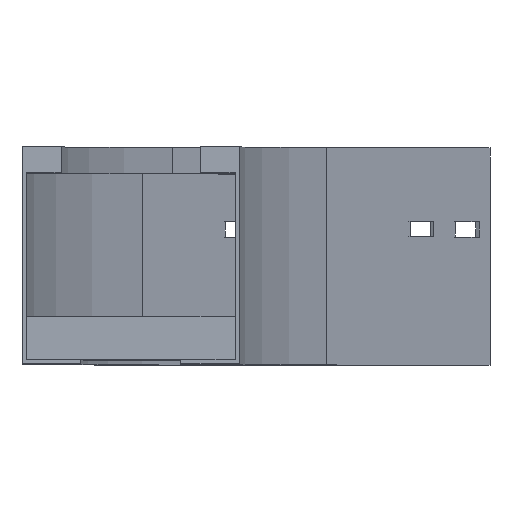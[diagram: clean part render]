
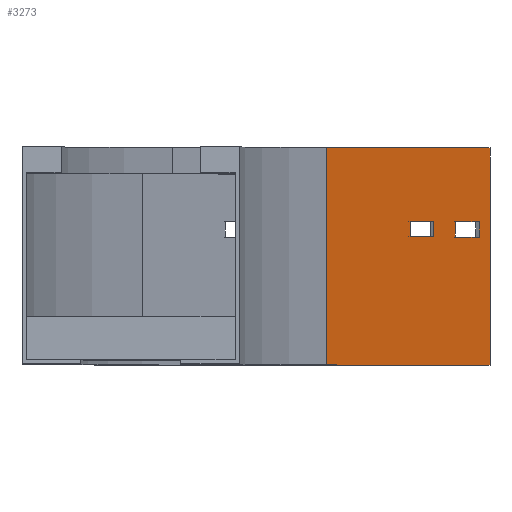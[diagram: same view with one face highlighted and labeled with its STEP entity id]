
A CAD part, top view. The second image highlights one B-rep face of the part: STEP entity #3273.
In plain terms, the highlighted planar face has unit normal (0.866, 0, 0.5).
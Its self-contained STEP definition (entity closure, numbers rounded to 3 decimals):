
#10 = VERTEX_POINT ( 'NONE', #3017 ) ;
#49 = CARTESIAN_POINT ( 'NONE',  ( 110.275, 66., -421.386 ) ) ;
#78 = LINE ( 'NONE', #449, #2650 ) ;
#108 = VERTEX_POINT ( 'NONE', #1789 ) ;
#145 = ORIENTED_EDGE ( 'NONE', *, *, #707, .T. ) ;
#217 = ORIENTED_EDGE ( 'NONE', *, *, #3652, .F. ) ;
#246 = CARTESIAN_POINT ( 'NONE',  ( 89.44, 66., -385.299 ) ) ;
#309 = CARTESIAN_POINT ( 'NONE',  ( 115.192, 0., -429.904 ) ) ;
#312 = VERTEX_POINT ( 'NONE', #309 ) ;
#317 = ORIENTED_EDGE ( 'NONE', *, *, #3409, .F. ) ;
#377 = VERTEX_POINT ( 'NONE', #3225 ) ;
#432 = CARTESIAN_POINT ( 'NONE',  ( 99.275, 66., -402.334 ) ) ;
#449 = CARTESIAN_POINT ( 'NONE',  ( 110.275, 59., -421.386 ) ) ;
#511 = VERTEX_POINT ( 'NONE', #1527 ) ;
#521 = CARTESIAN_POINT ( 'NONE',  ( 40.192, 0., -300. ) ) ;
#595 = VERTEX_POINT ( 'NONE', #2811 ) ;
#628 = DIRECTION ( 'NONE',  ( -0.5, 0., 0.866 ) ) ;
#649 = AXIS2_PLACEMENT_3D ( 'NONE', #1219, #3246, #3320 ) ;
#659 = ORIENTED_EDGE ( 'NONE', *, *, #3408, .F. ) ;
#675 = DIRECTION ( 'NONE',  ( 0.5, 0., -0.866 ) ) ;
#687 = VECTOR ( 'NONE', #1326, 1000. ) ;
#707 = EDGE_CURVE ( 'NONE', #3284, #312, #1414, .T. ) ;
#787 = LINE ( 'NONE', #1639, #2675 ) ;
#789 = EDGE_LOOP ( 'NONE', ( #659, #2040, #3160, #317 ) ) ;
#884 = LINE ( 'NONE', #49, #3141 ) ;
#985 = DIRECTION ( 'NONE',  ( 0., -1., 0. ) ) ;
#1088 = VECTOR ( 'NONE', #985, 1000. ) ;
#1219 = CARTESIAN_POINT ( 'NONE',  ( 40.192, 0., -300. ) ) ;
#1326 = DIRECTION ( 'NONE',  ( 0., 1., 0. ) ) ;
#1344 = CARTESIAN_POINT ( 'NONE',  ( 40.192, 0., -300. ) ) ;
#1361 = ORIENTED_EDGE ( 'NONE', *, *, #2327, .F. ) ;
#1390 = LINE ( 'NONE', #246, #1820 ) ;
#1414 = LINE ( 'NONE', #521, #1477 ) ;
#1477 = VECTOR ( 'NONE', #3468, 1000. ) ;
#1493 = FACE_OUTER_BOUND ( 'NONE', #1715, .T. ) ;
#1527 = CARTESIAN_POINT ( 'NONE',  ( 99.275, 59., -402.334 ) ) ;
#1549 = PLANE ( 'NONE',  #649 ) ;
#1573 = DIRECTION ( 'NONE',  ( 0., 1., 0. ) ) ;
#1639 = CARTESIAN_POINT ( 'NONE',  ( 40.192, 100., -300. ) ) ;
#1656 = LINE ( 'NONE', #2719, #1088 ) ;
#1675 = VERTEX_POINT ( 'NONE', #1848 ) ;
#1715 = EDGE_LOOP ( 'NONE', ( #2905, #3766, #145, #3603 ) ) ;
#1789 = CARTESIAN_POINT ( 'NONE',  ( 99.275, 66., -402.334 ) ) ;
#1820 = VECTOR ( 'NONE', #2907, 1000. ) ;
#1822 = CARTESIAN_POINT ( 'NONE',  ( 78.44, 66., -366.247 ) ) ;
#1825 = EDGE_CURVE ( 'NONE', #3284, #10, #3417, .T. ) ;
#1848 = CARTESIAN_POINT ( 'NONE',  ( 115.192, 100., -429.904 ) ) ;
#1898 = ORIENTED_EDGE ( 'NONE', *, *, #3726, .F. ) ;
#1915 = EDGE_CURVE ( 'NONE', #312, #1675, #1922, .T. ) ;
#1922 = LINE ( 'NONE', #2799, #687 ) ;
#1947 = DIRECTION ( 'NONE',  ( 0., 1., 0. ) ) ;
#1977 = DIRECTION ( 'NONE',  ( 0.5, 0., -0.866 ) ) ;
#2040 = ORIENTED_EDGE ( 'NONE', *, *, #3476, .F. ) ;
#2204 = EDGE_CURVE ( 'NONE', #10, #1675, #787, .T. ) ;
#2207 = CARTESIAN_POINT ( 'NONE',  ( 110.275, 66., -421.386 ) ) ;
#2287 = CARTESIAN_POINT ( 'NONE',  ( 110.275, 66., -421.386 ) ) ;
#2290 = LINE ( 'NONE', #3466, #2858 ) ;
#2327 = EDGE_CURVE ( 'NONE', #595, #2577, #2290, .T. ) ;
#2376 = FACE_BOUND ( 'NONE', #789, .T. ) ;
#2471 = DIRECTION ( 'NONE',  ( 0., -1., 0. ) ) ;
#2498 = LINE ( 'NONE', #3343, #2647 ) ;
#2577 = VERTEX_POINT ( 'NONE', #3720 ) ;
#2579 = EDGE_CURVE ( 'NONE', #377, #3781, #2788, .T. ) ;
#2623 = DIRECTION ( 'NONE',  ( 0.5, 0., -0.866 ) ) ;
#2647 = VECTOR ( 'NONE', #3735, 1000. ) ;
#2650 = VECTOR ( 'NONE', #675, 1000. ) ;
#2675 = VECTOR ( 'NONE', #1977, 1000. ) ;
#2700 = FACE_BOUND ( 'NONE', #2906, .T. ) ;
#2719 = CARTESIAN_POINT ( 'NONE',  ( 78.44, 66., -366.247 ) ) ;
#2788 = LINE ( 'NONE', #2207, #3112 ) ;
#2799 = CARTESIAN_POINT ( 'NONE',  ( 115.192, 0., -429.904 ) ) ;
#2811 = CARTESIAN_POINT ( 'NONE',  ( 78.44, 59., -366.247 ) ) ;
#2858 = VECTOR ( 'NONE', #2623, 1000. ) ;
#2905 = ORIENTED_EDGE ( 'NONE', *, *, #2204, .F. ) ;
#2906 = EDGE_LOOP ( 'NONE', ( #1898, #2923, #1361, #217 ) ) ;
#2907 = DIRECTION ( 'NONE',  ( -0.5, 0., 0.866 ) ) ;
#2923 = ORIENTED_EDGE ( 'NONE', *, *, #3010, .F. ) ;
#3010 = EDGE_CURVE ( 'NONE', #2577, #3804, #2498, .T. ) ;
#3017 = CARTESIAN_POINT ( 'NONE',  ( 40.192, 100., -300. ) ) ;
#3105 = LINE ( 'NONE', #432, #3262 ) ;
#3112 = VECTOR ( 'NONE', #1947, 1000. ) ;
#3141 = VECTOR ( 'NONE', #628, 1000. ) ;
#3160 = ORIENTED_EDGE ( 'NONE', *, *, #2579, .F. ) ;
#3225 = CARTESIAN_POINT ( 'NONE',  ( 110.275, 59., -421.386 ) ) ;
#3246 = DIRECTION ( 'NONE',  ( -0.866, 0., -0.5 ) ) ;
#3262 = VECTOR ( 'NONE', #2471, 1000. ) ;
#3273 = ADVANCED_FACE ( 'NONE', ( #2376, #2700, #1493 ), #1549, .F. ) ;
#3284 = VERTEX_POINT ( 'NONE', #3556 ) ;
#3320 = DIRECTION ( 'NONE',  ( -0.5, 0., 0.866 ) ) ;
#3343 = CARTESIAN_POINT ( 'NONE',  ( 89.44, 66., -385.299 ) ) ;
#3408 = EDGE_CURVE ( 'NONE', #108, #511, #3105, .T. ) ;
#3409 = EDGE_CURVE ( 'NONE', #511, #377, #78, .T. ) ;
#3417 = LINE ( 'NONE', #1344, #3475 ) ;
#3466 = CARTESIAN_POINT ( 'NONE',  ( 89.44, 59., -385.299 ) ) ;
#3468 = DIRECTION ( 'NONE',  ( 0.5, 0., -0.866 ) ) ;
#3475 = VECTOR ( 'NONE', #1573, 1000. ) ;
#3476 = EDGE_CURVE ( 'NONE', #3781, #108, #884, .T. ) ;
#3484 = CARTESIAN_POINT ( 'NONE',  ( 89.44, 66., -385.299 ) ) ;
#3545 = VERTEX_POINT ( 'NONE', #1822 ) ;
#3556 = CARTESIAN_POINT ( 'NONE',  ( 40.192, 0., -300. ) ) ;
#3603 = ORIENTED_EDGE ( 'NONE', *, *, #1915, .T. ) ;
#3652 = EDGE_CURVE ( 'NONE', #3545, #595, #1656, .T. ) ;
#3720 = CARTESIAN_POINT ( 'NONE',  ( 89.44, 59., -385.299 ) ) ;
#3726 = EDGE_CURVE ( 'NONE', #3804, #3545, #1390, .T. ) ;
#3735 = DIRECTION ( 'NONE',  ( 0., 1., 0. ) ) ;
#3766 = ORIENTED_EDGE ( 'NONE', *, *, #1825, .F. ) ;
#3781 = VERTEX_POINT ( 'NONE', #2287 ) ;
#3804 = VERTEX_POINT ( 'NONE', #3484 ) ;
